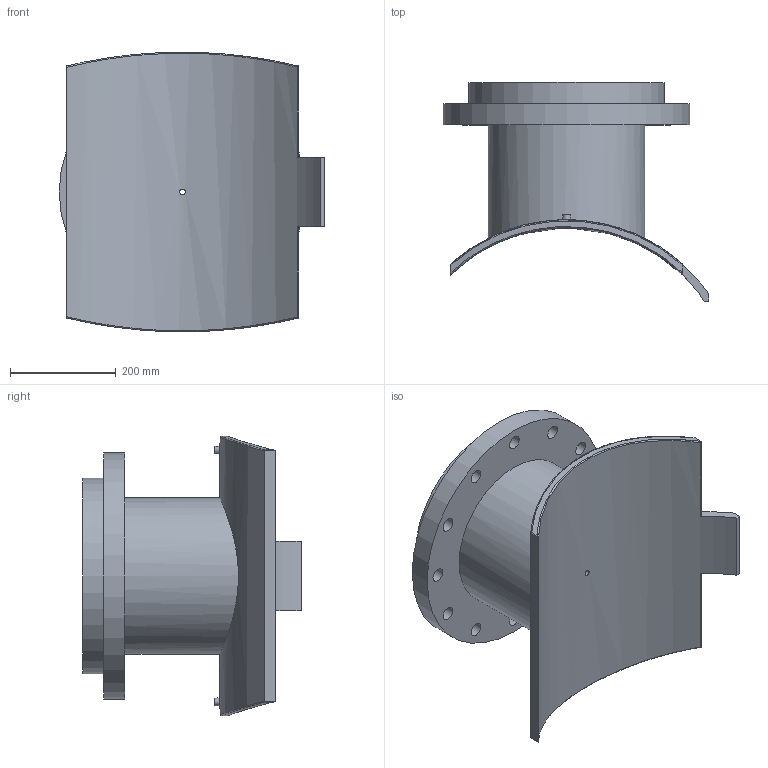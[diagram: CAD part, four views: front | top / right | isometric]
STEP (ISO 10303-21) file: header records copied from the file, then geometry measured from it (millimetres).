
FILE_DESCRIPTION(/* description */ ('PLASSON FLANGED BRANCH SADDLE 630X300'),/* implementation_level */ '2;1');
FILE_NAME(/* name */ 'C:\Dropbox\KIMPROJECTS-Inventor 2019\99-16-3568-Processing\ElectroFusion Fittings\495904_495903\stp\495903630300T.stp',/* time_stamp */ '2024-04-03T21:04:57+02:00',/* author */ ('KIM'),/* organization */ (''),/* preprocessor_version */ 'ST-DEVELOPER v17.2',/* originating_system */ 'Autodesk Inventor 2019',/* authorisation */ '');
FILE_SCHEMA (('AUTOMOTIVE_DESIGN { 1 0 10303 214 3 1 1 }'));
Length unit declared in the file: millimetre
Products named in the file (1): 495903630300T
Bounding box: 503 x 414.55 x 529.7 mm (x, y, z)
Volume: 13938905.1 mm3; surface area: 1306045.2 mm2
Topology: 1 solids, 1 shells, 62 faces, 163 edges, 126 vertices
Faces by surface type: cylinder 35, plane 17, sphere 4, bspline 4, cone 2
Full cylindrical faces by diameter (mm): 4 x2, 10 x2, 10.4 x1, 16 x1, 26 x12, 257 x1, 296 x1, 370 x1, 467 x1
Entity records: 2598 total; most frequent: CARTESIAN_POINT 970, DIRECTION 325, ORIENTED_EDGE 298, EDGE_CURVE 149, AXIS2_PLACEMENT_3D 137, VERTEX_POINT 100, EDGE_LOOP 99, CIRCLE 78
